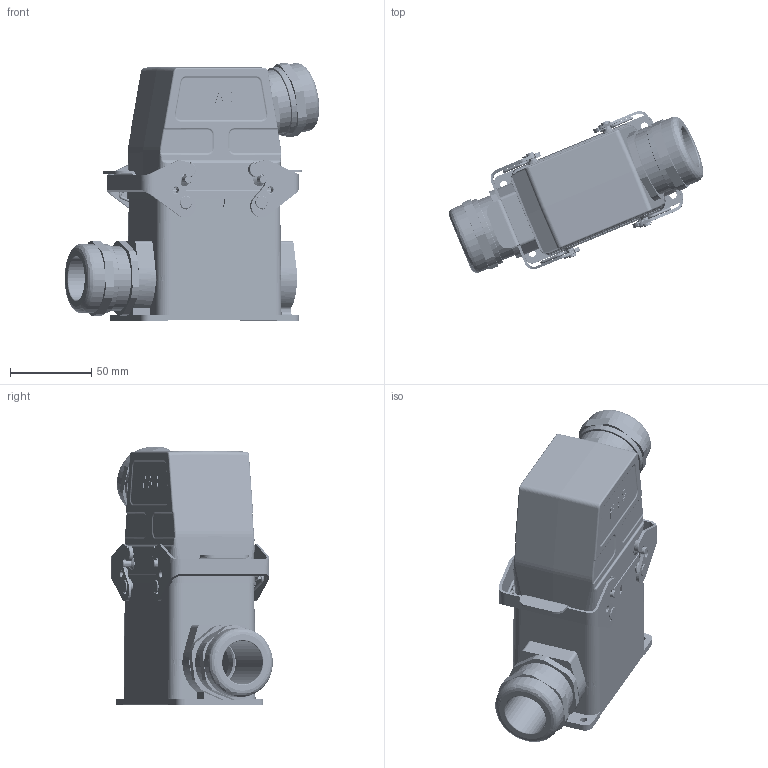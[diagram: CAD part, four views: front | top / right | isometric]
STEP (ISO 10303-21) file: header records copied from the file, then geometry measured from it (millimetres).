
FILE_DESCRIPTION (( 'STEP AP203' ), '1' );
FILE_NAME ('09032003232P HA32 HA、32针、表面底座、侧出M32套件、配塑料接头.STEP', '2024-05-07T02:54:55', ( 'L' ), ( '' ), 'SwSTEP 2.0', 'SolidWorks 2019', '' );
FILE_SCHEMA (( 'CONFIG_CONTROL_DESIGN' ));
Length unit declared in the file: millimetre
Products named in the file (18): 09032003232P HA32 HA、32针、表面底座、侧出M32套件、配塑料接头; 32ashuangkou.STEP.STEP; HA-016-MD(17-32).step.STEP; HA-016-F.stp.STEP; asm0001.STEP.STEP; 32akouzi.STEP-1.STEP; maoding_1.STEP.STEP; H32A-TS-M32.step.STEP; H32A-BM.STEP.STEP; FAS-32-P.step.STEP; 09032003232P HA32 HA、32针、表面底座、侧出M32套件、配塑料接头.STEP; HA-016-FD(17-32).step.STEP; tanhuang_1.STEP.STEP; ____6.STEP.STEP; HA-016-M.stp.STEP; H32A-SGR-M32.STEP.STEP; 32akouzi.STEP.STEP; FAS-32-P.step
Assembly tree (24 placements, depth 5):
  09032003232P HA32 HA、32针、表面底座、侧出M32套件、配塑料接头
    09032003232P HA32 HA、32针、表面底座、侧出M32套件、配塑料接头.STEP
      H32A-SGR-M32.STEP.STEP
        asm0001.STEP.STEP
          ____6.STEP.STEP
        32akouzi.STEP.STEP
          32ashuangkou.STEP.STEP
          tanhuang_1.STEP.STEP  x2
          maoding_1.STEP.STEP  x2
        32akouzi.STEP-1.STEP
          32ashuangkou.STEP.STEP
          tanhuang_1.STEP.STEP  x2
          maoding_1.STEP.STEP  x2
        H32A-BM.STEP.STEP
      HA-016-F.stp.STEP
      HA-016-FD(17-32).step.STEP
      HA-016-M.stp.STEP
      HA-016-MD(17-32).step.STEP
      FAS-32-P.step.STEP
      H32A-TS-M32.step.STEP
    FAS-32-P.step
Bounding box: 157.02 x 99.71 x 159.75 mm (x, y, z)
Volume: 403426.6 mm3; surface area: 209898.7 mm2
Topology: 19 solids, 19 shells, 6957 faces, 18413 edges, 11873 vertices
Faces by surface type: plane 3604, cylinder 1759, cone 630, bspline 550, torus 284, sphere 130
Entity records: 229661 total; most frequent: CARTESIAN_POINT 63771, ORIENTED_EDGE 35432, DIRECTION 32531, EDGE_CURVE 17716, VERTEX_POINT 11511, AXIS2_PLACEMENT_3D 11022, VECTOR 10487, LINE 10487
